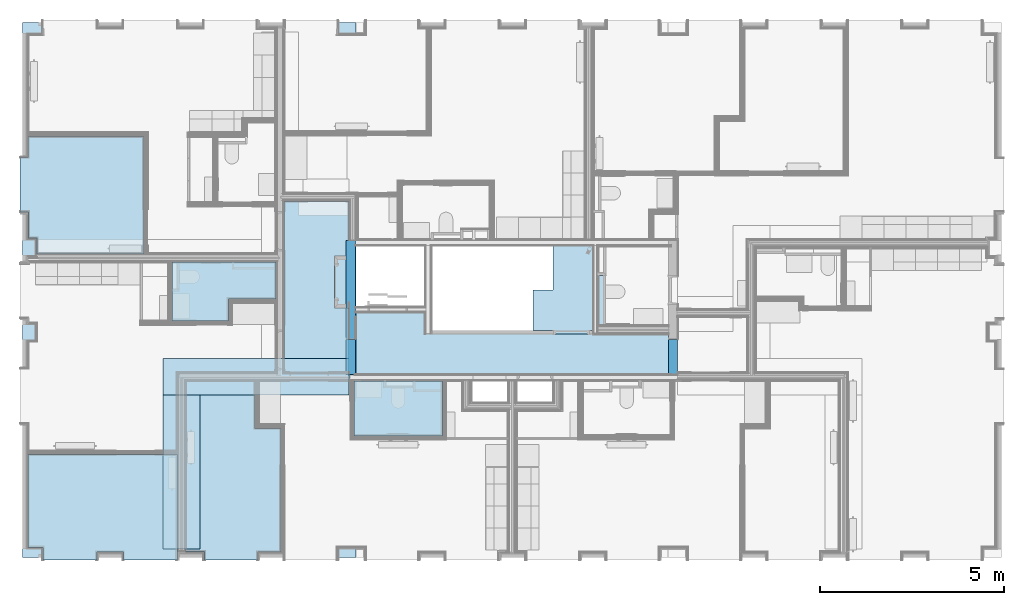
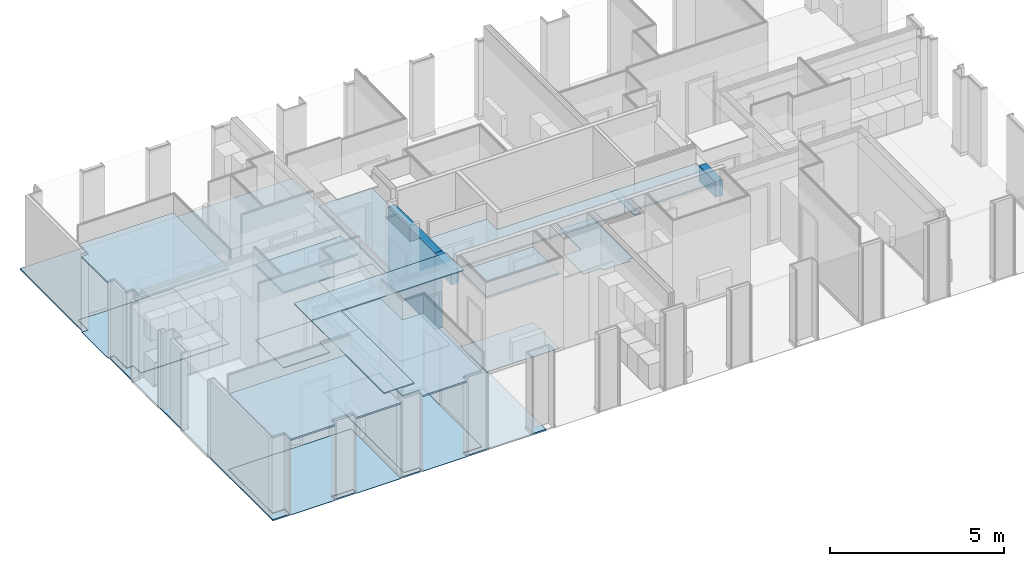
# One storey, part 1 of 65: 27 slabs, 3 beams.
"""IFC2X3 building model written with IfcOpenShell, lengths in metres."""

from ifc_helpers import new_model, entity, si_unit, converted_unit, derived_unit, money_unit, direction, frame, frame_2d, origin_with_axes, place, context, subcontext, project, spatial, rectangle, extrude, faceted_brep, material, type_object, element, save


model = new_model("IFC2X3")

# Units and contexts
model_context = context("Model", 3, precision=1e-05, world=origin_with_axes(), true_north=direction((0.0, 1.0)))
body_context = subcontext(model_context, "Body", "Model", "MODEL_VIEW", scale=1.0)
ifc_project = project(units=[si_unit("LENGTHUNIT", "METRE"), si_unit("AREAUNIT", "SQUARE_METRE"), si_unit("VOLUMEUNIT", "CUBIC_METRE"), si_unit("ABSORBEDDOSEUNIT", "GRAY"), si_unit("AMOUNTOFSUBSTANCEUNIT", "MOLE"), si_unit("DOSEEQUIVALENTUNIT", "SIEVERT"), si_unit("ELECTRICCAPACITANCEUNIT", "FARAD"), si_unit("ELECTRICCHARGEUNIT", "COULOMB"), si_unit("ELECTRICCONDUCTANCEUNIT", "SIEMENS"), si_unit("ELECTRICCURRENTUNIT", "AMPERE"), si_unit("ELECTRICRESISTANCEUNIT", "OHM"), si_unit("ELECTRICVOLTAGEUNIT", "VOLT"), si_unit("ENERGYUNIT", "JOULE"), si_unit("FORCEUNIT", "NEWTON"), si_unit("FREQUENCYUNIT", "HERTZ"), si_unit("ILLUMINANCEUNIT", "LUX"), si_unit("INDUCTANCEUNIT", "HENRY"), si_unit("LUMINOUSFLUXUNIT", "LUMEN"), si_unit("LUMINOUSINTENSITYUNIT", "CANDELA"), si_unit("MAGNETICFLUXDENSITYUNIT", "TESLA"), si_unit("MAGNETICFLUXUNIT", "WEBER"), si_unit("MASSUNIT", "GRAM"), converted_unit("PLANEANGLEUNIT", "degree", entity("IfcReal", 0.0174532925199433), si_unit("PLANEANGLEUNIT", "RADIAN"), dimensions=[0, 0, 0, 0, 0, 0, 0]), si_unit("POWERUNIT", "WATT"), si_unit("PRESSUREUNIT", "PASCAL"), si_unit("RADIOACTIVITYUNIT", "BECQUEREL"), si_unit("SOLIDANGLEUNIT", "STERADIAN"), si_unit("THERMODYNAMICTEMPERATUREUNIT", "KELVIN"), si_unit("TIMEUNIT", "SECOND"), derived_unit("ACCELERATIONUNIT", [(si_unit("LENGTHUNIT", "METRE"), 1), (si_unit("TIMEUNIT", "SECOND"), -2)]), derived_unit("ANGULARVELOCITYUNIT", [(converted_unit("PLANEANGLEUNIT", "degree", entity("IfcReal", 0.0174532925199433), si_unit("PLANEANGLEUNIT", "RADIAN"), dimensions=[0, 0, 0, 0, 0, 0, 0]), 1), (si_unit("TIMEUNIT", "SECOND"), -1)]), derived_unit("CURVATUREUNIT", [(converted_unit("PLANEANGLEUNIT", "degree", entity("IfcReal", 0.0174532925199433), si_unit("PLANEANGLEUNIT", "RADIAN"), dimensions=[0, 0, 0, 0, 0, 0, 0]), 1), (si_unit("LENGTHUNIT", "METRE"), -1)]), derived_unit("DYNAMICVISCOSITYUNIT", [(si_unit("PRESSUREUNIT", "PASCAL"), 1), (si_unit("TIMEUNIT", "SECOND"), 1)]), derived_unit("HEATFLUXDENSITYUNIT", [(si_unit("POWERUNIT", "WATT"), 1), (si_unit("LENGTHUNIT", "METRE"), -2)]), derived_unit("HEATINGVALUEUNIT", [(si_unit("ENERGYUNIT", "JOULE"), 1), (si_unit("MASSUNIT", "GRAM"), -1)]), derived_unit("INTEGERCOUNTRATEUNIT", [(si_unit("TIMEUNIT", "SECOND"), -1)]), derived_unit("IONCONCENTRATIONUNIT", [(si_unit("MASSUNIT", "GRAM"), 1), (si_unit("VOLUMEUNIT", "CUBIC_METRE"), -1)]), derived_unit("ISOTHERMALMOISTURECAPACITYUNIT", [(si_unit("VOLUMEUNIT", "CUBIC_METRE"), 1), (si_unit("MASSUNIT", "GRAM"), -1)]), derived_unit("KINEMATICVISCOSITYUNIT", [(si_unit("AREAUNIT", "SQUARE_METRE"), 1), (si_unit("TIMEUNIT", "SECOND"), -1)]), derived_unit("LINEARFORCEUNIT", [(si_unit("FORCEUNIT", "NEWTON"), 1), (si_unit("LENGTHUNIT", "METRE"), -1)]), derived_unit("LINEARMOMENTUNIT", [(si_unit("FORCEUNIT", "NEWTON"), 1), (si_unit("LENGTHUNIT", "METRE"), -1)]), derived_unit("LINEARSTIFFNESSUNIT", [(si_unit("FORCEUNIT", "NEWTON"), 1), (si_unit("LENGTHUNIT", "METRE"), -1)]), derived_unit("LINEARVELOCITYUNIT", [(si_unit("LENGTHUNIT", "METRE"), 1), (si_unit("TIMEUNIT", "SECOND"), -1)]), derived_unit("LUMINOUSINTENSITYDISTRIBUTIONUNIT", [(si_unit("LUMINOUSINTENSITYUNIT", "CANDELA"), 1), (si_unit("LUMINOUSFLUXUNIT", "LUMEN"), -1)]), derived_unit("MASSDENSITYUNIT", [(si_unit("MASSUNIT", "GRAM"), 1), (si_unit("VOLUMEUNIT", "CUBIC_METRE"), -1)]), derived_unit("MASSFLOWRATEUNIT", [(si_unit("MASSUNIT", "GRAM"), 1), (si_unit("TIMEUNIT", "SECOND"), -1)]), derived_unit("MASSPERLENGTHUNIT", [(si_unit("MASSUNIT", "GRAM"), 1), (si_unit("LENGTHUNIT", "METRE"), -1)]), derived_unit("MODULUSOFELASTICITYUNIT", [(si_unit("FORCEUNIT", "NEWTON"), 1), (si_unit("AREAUNIT", "SQUARE_METRE"), -1)]), derived_unit("MODULUSOFLINEARSUBGRADEREACTIONUNIT", [(si_unit("FORCEUNIT", "NEWTON"), 1), (si_unit("LENGTHUNIT", "METRE"), -2)]), derived_unit("MODULUSOFROTATIONALSUBGRADEREACTIONUNIT", [(si_unit("FORCEUNIT", "NEWTON"), 1), (si_unit("LENGTHUNIT", "METRE"), 1)]), derived_unit("MODULUSOFSUBGRADEREACTIONUNIT", [(si_unit("FORCEUNIT", "NEWTON"), 1), (si_unit("VOLUMEUNIT", "CUBIC_METRE"), -1)]), derived_unit("MOISTUREDIFFUSIVITYUNIT", [(si_unit("VOLUMEUNIT", "CUBIC_METRE"), 1), (si_unit("TIMEUNIT", "SECOND"), -1)]), derived_unit("MOLECULARWEIGHTUNIT", [(si_unit("MASSUNIT", "GRAM"), 1), (si_unit("AMOUNTOFSUBSTANCEUNIT", "MOLE"), -1)]), derived_unit("PLANARFORCEUNIT", [(si_unit("FORCEUNIT", "NEWTON"), 1), (si_unit("LENGTHUNIT", "METRE"), -2)]), derived_unit("ROTATIONALFREQUENCYUNIT", [(si_unit("TIMEUNIT", "SECOND"), -1)]), derived_unit("ROTATIONALMASSUNIT", [(si_unit("MASSUNIT", "GRAM"), 1), (si_unit("LENGTHUNIT", "METRE"), 2)]), derived_unit("ROTATIONALSTIFFNESSUNIT", [(si_unit("FORCEUNIT", "NEWTON"), 1), (si_unit("LENGTHUNIT", "METRE"), 1), (converted_unit("PLANEANGLEUNIT", "degree", entity("IfcReal", 0.0174532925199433), si_unit("PLANEANGLEUNIT", "RADIAN"), dimensions=[0, 0, 0, 0, 0, 0, 0]), -1)]), derived_unit("SECTIONAREAINTEGRALUNIT", [(si_unit("LENGTHUNIT", "METRE"), 5)]), derived_unit("SECTIONMODULUSUNIT", [(si_unit("LENGTHUNIT", "METRE"), 3)]), derived_unit("SHEARMODULUSUNIT", [(si_unit("FORCEUNIT", "NEWTON"), 1), (si_unit("AREAUNIT", "SQUARE_METRE"), -1)]), derived_unit("SOUNDPOWERUNIT", [(si_unit("ENERGYUNIT", "JOULE"), 1), (si_unit("TIMEUNIT", "SECOND"), -1)]), derived_unit("SPECIFICHEATCAPACITYUNIT", [(si_unit("FORCEUNIT", "NEWTON"), 1), (si_unit("MASSUNIT", "GRAM"), -1), (si_unit("THERMODYNAMICTEMPERATUREUNIT", "KELVIN"), -1)]), derived_unit("TEMPERATUREGRADIENTUNIT", [(si_unit("THERMODYNAMICTEMPERATUREUNIT", "KELVIN"), 1), (si_unit("LENGTHUNIT", "METRE"), -1)]), derived_unit("THERMALADMITTANCEUNIT", [(si_unit("POWERUNIT", "WATT"), 1), (si_unit("AREAUNIT", "SQUARE_METRE"), -1), (si_unit("THERMODYNAMICTEMPERATUREUNIT", "KELVIN"), -1)]), derived_unit("THERMALCONDUCTANCEUNIT", [(si_unit("POWERUNIT", "WATT"), 1), (si_unit("LENGTHUNIT", "METRE"), -1), (si_unit("THERMODYNAMICTEMPERATUREUNIT", "KELVIN"), -1)]), derived_unit("THERMALEXPANSIONCOEFFICIENTUNIT", [(si_unit("THERMODYNAMICTEMPERATUREUNIT", "KELVIN"), -1)]), derived_unit("THERMALRESISTANCEUNIT", [(si_unit("AREAUNIT", "SQUARE_METRE"), 1), (si_unit("POWERUNIT", "WATT"), -1)]), derived_unit("THERMALTRANSMITTANCEUNIT", [(si_unit("POWERUNIT", "WATT"), 1), (si_unit("AREAUNIT", "SQUARE_METRE"), -1), (si_unit("THERMODYNAMICTEMPERATUREUNIT", "KELVIN"), -1)]), derived_unit("TORQUEUNIT", [(si_unit("FORCEUNIT", "NEWTON"), 1), (si_unit("LENGTHUNIT", "METRE"), 1)]), derived_unit("VAPORPERMEABILITYUNIT", [(si_unit("MASSUNIT", "GRAM"), 1), (si_unit("TIMEUNIT", "SECOND"), -1)]), derived_unit("VOLUMETRICFLOWRATEUNIT", [(si_unit("VOLUMEUNIT", "CUBIC_METRE"), 1), (si_unit("TIMEUNIT", "SECOND"), -1)]), derived_unit("WARPINGCONSTANTUNIT", [(si_unit("LENGTHUNIT", "METRE"), 6)]), derived_unit("WARPINGMOMENTUNIT", [(si_unit("FORCEUNIT", "NEWTON"), 1), (si_unit("LENGTHUNIT", "METRE"), 2)]), money_unit("GBP")], contexts=[model_context])

# Site, building, storey
site_placement = place(None, origin_with_axes())
site = spatial("IfcSite", under=ifc_project, at=site_placement, Name="Site", CompositionType="ELEMENT")
building_placement = place(site_placement, origin_with_axes())
building = spatial("IfcBuilding", under=site, at=building_placement, Name="Building01", CompositionType="ELEMENT")
storey_placement = place(building_placement, frame((0.0, 0.0, 8.64), z_axis=(0.0, 0.0, 1.0), x_axis=(1.0, 0.0, 0.0)))
storey = spatial("IfcBuildingStorey", under=building, at=storey_placement, Name="2F", CompositionType="ELEMENT", Elevation=8.64)

# Beams
ifc_material_1 = material(Name="S_BSUK_Beams_PrecastConcrete")
beam_type_1 = type_object("IfcBeamType", Name="S-Beams-PrecastConcrete", PredefinedType="BEAM")
beam_1_placement = place(storey_placement, frame((8.975, 8.8, -0.01), z_axis=(0.0, -1.0, 0.0), x_axis=(1.0, 0.0, 0.0)))
element("IfcBeam", 1, at=beam_1_placement, inside=storey, type_object=beam_type_1, material=ifc_material_1, Name="S-Beams-PrecastConcrete", ObjectType="S-Beams-PrecastConcrete", context=body_context, shape_type="SweptSolid", body=[
    extrude(rectangle(XDim=2.7, YDim=0.25, at=frame_2d((0.125, 1.35), x_axis=(0.0, 1.0))), origin_with_axes(), (0.0, 0.0, 1.0), 2.7),
])
beam_2_placement = place(storey_placement, frame((8.975, 6.1, 2.142), z_axis=(0.0, -1.0, 0.0), x_axis=(1.0, 0.0, 0.0)))
element("IfcBeam", 2, at=beam_2_placement, inside=storey, type_object=beam_type_1, material=ifc_material_1, Name="S-Beams-PrecastConcrete", ObjectType="S-Beams-PrecastConcrete", context=body_context, shape_type="SweptSolid", body=[
    extrude(rectangle(XDim=0.548, YDim=0.25, at=frame_2d((0.125, 0.274), x_axis=(0.0, 1.0))), origin_with_axes(), (0.0, 0.0, 1.0), 0.95),
])
beam_type_2 = type_object("IfcBeamType", Name="S-Beams:S_BSUK_Beams_PrecastConcrete", PredefinedType="NOTDEFINED")
beam_3_placement = place(storey_placement, frame((17.75, 6.1, 2.142), z_axis=(0.0, -1.0, 0.0), x_axis=(1.0, 0.0, 0.0)))
element("IfcBeam", 3, at=beam_3_placement, inside=storey, type_object=beam_type_2, material=ifc_material_1, Name="S-Beams--S_BSUK_Beams_PrecastConcrete", ObjectType="S-Beams:S_BSUK_Beams_PrecastConcrete", context=body_context, shape_type="SweptSolid", body=[
    extrude(rectangle(XDim=0.548, YDim=0.25, at=frame_2d((0.125, 0.274), x_axis=(0.0, 1.0))), origin_with_axes(), (0.0, 0.0, 1.0), 0.95),
])

# Slabs
ifc_material_2 = material(Name="A_BSUK_CeilingSoffitFinishes_Suspended")
slab_type_1 = type_object("IfcSlabType", Name="A-FloorsSlabs A_BSUK_Slabs", PredefinedType="FLOOR")
placement = place(storey_placement, frame((0.0, 0.0, -8.64), z_axis=(0.0, 0.0, 1.0), x_axis=(1.0, 0.0, 0.0)))
element("IfcSlab", 4, at=placement, inside=storey, type_object=slab_type_1, material=ifc_material_2, Name="A-FloorsSlabs A_BSUK_Slabs", ObjectType="CompoundSlabLeaf", context=body_context, shape_type="Brep", body=[
    faceted_brep([(7.289669, 5.205, 11.255), (7.289669, 5.205, 11.27), (7.289669, 9.862704, 11.27), (7.289669, 9.862704, 11.255), (9.06, 5.205, 11.255), (9.06, 5.205, 11.27), (9.06, 6.968405, 11.255), (9.06, 6.968405, 11.27), (8.658, 6.968405, 11.255), (8.658, 6.968405, 11.27), (8.658, 8.372405, 11.255), (8.658, 8.372405, 11.27), (8.975, 8.372405, 11.255), (8.975, 8.372405, 11.27), (8.975, 8.8, 11.255), (8.975, 8.8, 11.27), (9.06, 8.8, 11.255), (9.06, 8.8, 11.27), (9.06, 9.862704, 11.255), (9.06, 9.862704, 11.27)], [[[0, 1, 2, 3]], [[4, 5, 1, 0]], [[6, 7, 5, 4]], [[8, 9, 7, 6]], [[10, 11, 9, 8]], [[12, 13, 11, 10]], [[14, 15, 13, 12]], [[16, 17, 15, 14]], [[18, 19, 17, 16]], [[3, 2, 19, 18]], [[1, 5, 7, 9, 11, 13, 15, 17, 19, 2]], [[3, 18, 16, 14, 12, 10, 8, 6, 4, 0]]]),
])
element("IfcSlab", 5, at=placement, inside=storey, type_object=slab_type_1, material=ifc_material_2, Name="A-FloorsSlabs A_BSUK_Slabs", ObjectType="CompoundSlabLeaf", context=body_context, shape_type="Brep", body=[
    faceted_brep([(9.25, 5.15, 11.255), (9.25, 5.15, 11.27), (9.25, 6.85, 11.27), (9.25, 6.85, 11.255), (17.75, 5.15, 11.255), (17.75, 5.15, 11.27), (17.75, 6.25, 11.255), (17.75, 6.25, 11.27), (15.679803, 6.25, 11.255), (15.679803, 6.25, 11.27), (11.13, 6.25, 11.255), (11.13, 6.25, 11.27), (11.13, 6.85, 11.255), (11.13, 6.85, 11.27)], [[[0, 1, 2, 3]], [[4, 5, 1, 0]], [[6, 7, 5, 4]], [[8, 9, 7, 6]], [[10, 11, 9, 8]], [[12, 13, 11, 10]], [[3, 2, 13, 12]], [[1, 5, 7, 9, 11, 13, 2]], [[3, 12, 10, 8, 6, 4, 0]]]),
])
ifc_material_3 = material(Name="A_BSUK_InternalFinishes_FloorScreed")
element("IfcSlab", 6, at=placement, inside=storey, type_object=slab_type_1, material=ifc_material_3, Name="A-FloorsSlabs A_BSUK_Slabs", ObjectType="CompoundSlabLeaf", context=body_context, shape_type="Brep", body=[
    faceted_brep([(0.17, 14.73, 8.59), (0.17, 14.73, 8.64), (9.25, 14.73, 8.64), (9.25, 14.73, 8.59), (0.17, 0.17, 8.59), (0.17, 0.17, 8.64), (9.25, 0.17, 8.59), (9.25, 0.17, 8.64)], [[[0, 1, 2, 3]], [[4, 5, 1, 0]], [[6, 7, 5, 4]], [[3, 2, 7, 6]], [[1, 5, 7, 2]], [[3, 6, 4, 0]]]),
])
ifc_material_4 = material(Name="A_BSUK_Ceramic_WallTiles")
element("IfcSlab", 7, at=placement, inside=storey, type_object=slab_type_1, material=ifc_material_4, Name="A-FloorsSlabs A_BSUK_Slabs", ObjectType="CompoundSlabLeaf", context=body_context, shape_type="Brep", body=[
    faceted_brep([(16.03, 6.475, 10.015), (16.03, 6.475, 10.04), (15.83, 6.475, 10.04), (15.83, 6.475, 10.015), (16.03, 7.849998, 10.015), (16.03, 7.849998, 10.04), (15.830003, 7.85, 10.015), (15.830003, 7.85, 10.04)], [[[0, 1, 2, 3]], [[4, 5, 1, 0]], [[6, 7, 5, 4]], [[3, 2, 7, 6]], [[1, 5, 7, 2]], [[3, 6, 4, 0]]]),
])
ifc_material_5 = material(Name="A_BSUK_ExpandedPolystyreneBoards")
element("IfcSlab", 8, at=placement, inside=storey, type_object=slab_type_1, material=ifc_material_5, Name="A-FloorsSlabs A_BSUK_Slabs", ObjectType="CompoundSlabLeaf", context=body_context, shape_type="Brep", body=[
    faceted_brep([(7.289669, 5.205, 8.64), (7.289669, 5.205, 8.643), (7.289669, 9.862704, 8.643), (7.289669, 9.862704, 8.64), (8.975, 5.205, 8.64), (8.975, 5.205, 8.643), (8.975, 6.968405, 8.64), (8.975, 6.968405, 8.643), (9.06, 6.968405, 8.64), (9.06, 6.968405, 8.643), (9.06, 8.372405, 8.64), (9.06, 8.372405, 8.643), (9.06, 8.9, 8.64), (9.06, 8.9, 8.643), (9.06, 9.862704, 8.64), (9.06, 9.862704, 8.643)], [[[0, 1, 2, 3]], [[4, 5, 1, 0]], [[6, 7, 5, 4]], [[8, 9, 7, 6]], [[10, 11, 9, 8]], [[12, 13, 11, 10]], [[14, 15, 13, 12]], [[3, 2, 15, 14]], [[1, 5, 7, 9, 11, 13, 15, 2]], [[3, 14, 12, 10, 8, 6, 4, 0]]]),
])
ifc_material_6 = material(Name="A_BSUK_Carpet-Pile")
element("IfcSlab", 9, at=placement, inside=storey, type_object=slab_type_1, material=ifc_material_6, Name="A-FloorsSlabs A_BSUK_Slabs", ObjectType="CompoundSlabLeaf", context=body_context, shape_type="Brep", body=[
    faceted_brep([(0.318, 11.63067, 8.643), (0.318, 11.63067, 8.655), (3.474669, 11.63067, 8.655), (3.474669, 11.63067, 8.643), (0.318, 11.055, 8.643), (0.318, 11.055, 8.655), (0.1, 11.055, 8.643), (0.1, 11.055, 8.655), (0.1, 9.56218, 8.643), (0.1, 9.56218, 8.655), (0.318, 9.56218, 8.643), (0.318, 9.56218, 8.655), (0.318, 8.848, 8.643), (0.318, 8.848, 8.655), (0.548, 8.848, 8.643), (0.548, 8.848, 8.655), (0.548, 8.43567, 8.643), (0.548, 8.43567, 8.655), (3.474669, 8.43567, 8.643), (3.474669, 8.43567, 8.655)], [[[0, 1, 2, 3]], [[4, 5, 1, 0]], [[6, 7, 5, 4]], [[8, 9, 7, 6]], [[10, 11, 9, 8]], [[12, 13, 11, 10]], [[14, 15, 13, 12]], [[16, 17, 15, 14]], [[18, 19, 17, 16]], [[3, 2, 19, 18]], [[1, 5, 7, 9, 11, 13, 15, 17, 19, 2]], [[3, 18, 16, 14, 12, 10, 8, 6, 4, 0]]]),
])
ifc_material_7 = material(Name="A_BSUK_Ceramic_FloorTiles")
element("IfcSlab", 10, at=placement, inside=storey, type_object=slab_type_1, material=ifc_material_7, Name="A-FloorsSlabs A_BSUK_Slabs", ObjectType="CompoundSlabLeaf", context=body_context, shape_type="Brep", body=[
    faceted_brep([(9.192536, 4.98, 8.643), (9.192536, 4.98, 8.655), (11.592536, 4.98, 8.655), (11.592536, 4.98, 8.643), (9.192536, 3.48, 8.643), (9.192536, 3.48, 8.655), (11.592536, 3.48, 8.643), (11.592536, 3.48, 8.655), (11.592536, 4.259428, 8.643), (11.592536, 4.259428, 8.655)], [[[0, 1, 2, 3]], [[4, 5, 1, 0]], [[6, 7, 5, 4]], [[8, 9, 7, 6]], [[3, 2, 9, 8]], [[1, 5, 7, 9, 2]], [[3, 8, 6, 4, 0]]]),
])
element("IfcSlab", 11, at=placement, inside=storey, type_object=slab_type_1, material=ifc_material_6, Name="A-FloorsSlabs A_BSUK_Slabs", ObjectType="CompoundSlabLeaf", context=body_context, shape_type="Brep", body=[
    faceted_brep([(4.61, 4.98, 8.643), (4.61, 4.98, 8.655), (6.5, 4.98, 8.655), (6.5, 4.98, 8.643), (4.61, 0.318, 8.643), (4.61, 0.318, 8.655), (5.105, 0.318, 8.643), (5.105, 0.318, 8.655), (5.105, 0.1, 8.643), (5.105, 0.1, 8.655), (6.575, 0.1, 8.643), (6.575, 0.1, 8.655), (6.575, 0.318, 8.643), (6.575, 0.318, 8.655), (7.2, 0.318, 8.643), (7.2, 0.318, 8.655), (7.2, 3.685, 8.643), (7.2, 3.685, 8.655), (6.5, 3.685, 8.643), (6.5, 3.685, 8.655)], [[[0, 1, 2, 3]], [[4, 5, 1, 0]], [[6, 7, 5, 4]], [[8, 9, 7, 6]], [[10, 11, 9, 8]], [[12, 13, 11, 10]], [[14, 15, 13, 12]], [[16, 17, 15, 14]], [[18, 19, 17, 16]], [[3, 2, 19, 18]], [[1, 5, 7, 9, 11, 13, 15, 17, 19, 2]], [[3, 18, 16, 14, 12, 10, 8, 6, 4, 0]]]),
])
element("IfcSlab", 12, at=placement, inside=storey, type_object=slab_type_1, material=ifc_material_7, Name="A-FloorsSlabs A_BSUK_Slabs", ObjectType="CompoundSlabLeaf", context=body_context, shape_type="Brep", body=[
    faceted_brep([(4.24073, 8.21067, 8.643), (4.24073, 8.21067, 8.655), (7.064669, 8.21067, 8.655), (7.064669, 8.21067, 8.643), (4.24073, 6.606475, 8.643), (4.24073, 6.606475, 8.655), (5.769669, 6.606475, 8.643), (5.769669, 6.606475, 8.655), (5.769669, 7.206475, 8.643), (5.769669, 7.206475, 8.655), (7.064669, 7.206475, 8.643), (7.064669, 7.206475, 8.655)], [[[0, 1, 2, 3]], [[4, 5, 1, 0]], [[6, 7, 5, 4]], [[8, 9, 7, 6]], [[10, 11, 9, 8]], [[3, 2, 11, 10]], [[1, 5, 7, 9, 11, 2]], [[3, 10, 8, 6, 4, 0]]]),
])
element("IfcSlab", 13, at=placement, inside=storey, type_object=slab_type_1, material=ifc_material_6, Name="A-FloorsSlabs A_BSUK_Slabs", ObjectType="CompoundSlabLeaf", context=body_context, shape_type="Brep", body=[
    faceted_brep([(0.318, 0.448, 8.643), (0.318, 0.448, 8.655), (0.318, 2.970286, 8.655), (0.318, 2.970286, 8.643), (0.725, 0.448, 8.643), (0.725, 0.448, 8.655), (0.725, 0.1, 8.643), (0.725, 0.1, 8.655), (2.195, 0.1, 8.643), (2.195, 0.1, 8.655), (2.195, 0.318, 8.643), (2.195, 0.318, 8.655), (2.915, 0.318, 8.643), (2.915, 0.318, 8.655), (2.915, 0.1, 8.643), (2.915, 0.1, 8.655), (4.385, 0.1, 8.643), (4.385, 0.1, 8.655), (4.385, 2.970286, 8.643), (4.385, 2.970286, 8.655)], [[[0, 1, 2, 3]], [[4, 5, 1, 0]], [[6, 7, 5, 4]], [[8, 9, 7, 6]], [[10, 11, 9, 8]], [[12, 13, 11, 10]], [[14, 15, 13, 12]], [[16, 17, 15, 14]], [[18, 19, 17, 16]], [[3, 2, 19, 18]], [[1, 5, 7, 9, 11, 13, 15, 17, 19, 2]], [[3, 18, 16, 14, 12, 10, 8, 6, 4, 0]]]),
])
element("IfcSlab", 14, at=placement, inside=storey, type_object=slab_type_1, material=ifc_material_6, Name="A-FloorsSlabs A_BSUK_Slabs", ObjectType="CompoundSlabLeaf", context=body_context, shape_type="Brep", body=[
    faceted_brep([(14.609584, 7.454282, 8.643), (14.609584, 7.454282, 8.655), (14.609584, 8.65, 8.655), (14.609584, 8.65, 8.643), (14.059316, 7.454282, 8.643), (14.059316, 7.454282, 8.655), (14.059316, 6.35, 8.643), (14.059316, 6.35, 8.655), (14.658, 6.35, 8.643), (14.658, 6.35, 8.655), (14.658, 6.25, 8.643), (14.658, 6.25, 8.655), (15.558, 6.25, 8.643), (15.558, 6.25, 8.655), (15.558, 6.35, 8.643), (15.558, 6.35, 8.655), (15.7, 6.35, 8.643), (15.7, 6.35, 8.655), (15.7, 8.65, 8.643), (15.7, 8.65, 8.655)], [[[0, 1, 2, 3]], [[4, 5, 1, 0]], [[6, 7, 5, 4]], [[8, 9, 7, 6]], [[10, 11, 9, 8]], [[12, 13, 11, 10]], [[14, 15, 13, 12]], [[16, 17, 15, 14]], [[18, 19, 17, 16]], [[3, 2, 19, 18]], [[1, 5, 7, 9, 11, 13, 15, 17, 19, 2]], [[3, 18, 16, 14, 12, 10, 8, 6, 4, 0]]]),
])
element("IfcSlab", 15, at=placement, inside=storey, type_object=slab_type_1, material=ifc_material_2, Name="A-FloorsSlabs A_BSUK_Slabs", ObjectType="CompoundSlabLeaf", context=body_context, shape_type="Brep", body=[
    faceted_brep([(9.192536, 4.98, 11.255), (9.192536, 4.98, 11.27), (11.592536, 4.98, 11.27), (11.592536, 4.98, 11.255), (9.192536, 3.48, 11.255), (9.192536, 3.48, 11.27), (11.592536, 3.48, 11.255), (11.592536, 3.48, 11.27), (11.592536, 4.259428, 11.255), (11.592536, 4.259428, 11.27)], [[[0, 1, 2, 3]], [[4, 5, 1, 0]], [[6, 7, 5, 4]], [[8, 9, 7, 6]], [[3, 2, 9, 8]], [[1, 5, 7, 9, 2]], [[3, 8, 6, 4, 0]]]),
])
element("IfcSlab", 16, at=placement, inside=storey, type_object=slab_type_1, material=ifc_material_2, Name="A-FloorsSlabs A_BSUK_Slabs", ObjectType="CompoundSlabLeaf", context=body_context, shape_type="Brep", body=[
    faceted_brep([(4.61, 4.98, 11.255), (4.61, 4.98, 11.27), (6.5, 4.98, 11.27), (6.5, 4.98, 11.255), (4.61, 0.333, 11.255), (4.61, 0.333, 11.27), (5.120124, 0.333, 11.255), (5.120124, 0.333, 11.27), (5.120124, 0.1, 11.255), (5.120124, 0.1, 11.27), (6.575, 0.1, 11.255), (6.575, 0.1, 11.27), (6.575, 0.318, 11.255), (6.575, 0.318, 11.27), (7.2, 0.318, 11.255), (7.2, 0.318, 11.27), (7.2, 3.685, 11.255), (7.2, 3.685, 11.27), (6.5, 3.685, 11.255), (6.5, 3.685, 11.27)], [[[0, 1, 2, 3]], [[4, 5, 1, 0]], [[6, 7, 5, 4]], [[8, 9, 7, 6]], [[10, 11, 9, 8]], [[12, 13, 11, 10]], [[14, 15, 13, 12]], [[16, 17, 15, 14]], [[18, 19, 17, 16]], [[3, 2, 19, 18]], [[1, 5, 7, 9, 11, 13, 15, 17, 19, 2]], [[3, 18, 16, 14, 12, 10, 8, 6, 4, 0]]]),
])
element("IfcSlab", 17, at=placement, inside=storey, type_object=slab_type_1, material=ifc_material_2, Name="A-FloorsSlabs A_BSUK_Slabs", ObjectType="CompoundSlabLeaf", context=body_context, shape_type="Brep", body=[
    faceted_brep([(4.24073, 8.21067, 11.255), (4.24073, 8.21067, 11.27), (7.064669, 8.21067, 11.27), (7.064669, 8.21067, 11.255), (4.24073, 6.606475, 11.255), (4.24073, 6.606475, 11.27), (5.769669, 6.606475, 11.255), (5.769669, 6.606475, 11.27), (5.769669, 7.206475, 11.255), (5.769669, 7.206475, 11.27), (7.064669, 7.206475, 11.255), (7.064669, 7.206475, 11.27)], [[[0, 1, 2, 3]], [[4, 5, 1, 0]], [[6, 7, 5, 4]], [[8, 9, 7, 6]], [[10, 11, 9, 8]], [[3, 2, 11, 10]], [[1, 5, 7, 9, 11, 2]], [[3, 10, 8, 6, 4, 0]]]),
])
element("IfcSlab", 18, at=placement, inside=storey, type_object=slab_type_1, material=ifc_material_2, Name="A-FloorsSlabs A_BSUK_Slabs", ObjectType="CompoundSlabLeaf", context=body_context, shape_type="Brep", body=[
    faceted_brep([(0.318, 11.63067, 11.255), (0.318, 11.63067, 11.27), (3.474669, 11.63067, 11.27), (3.474669, 11.63067, 11.255), (0.318, 11.055, 11.255), (0.318, 11.055, 11.27), (0.1, 11.055, 11.255), (0.1, 11.055, 11.27), (0.1, 9.57718, 11.255), (0.1, 9.57718, 11.27), (0.333, 9.57718, 11.255), (0.333, 9.57718, 11.27), (0.333, 8.863, 11.255), (0.333, 8.863, 11.27), (0.563, 8.863, 11.255), (0.563, 8.863, 11.27), (0.563, 8.43567, 11.255), (0.563, 8.43567, 11.27), (3.474669, 8.43567, 11.255), (3.474669, 8.43567, 11.27)], [[[0, 1, 2, 3]], [[4, 5, 1, 0]], [[6, 7, 5, 4]], [[8, 9, 7, 6]], [[10, 11, 9, 8]], [[12, 13, 11, 10]], [[14, 15, 13, 12]], [[16, 17, 15, 14]], [[18, 19, 17, 16]], [[3, 2, 19, 18]], [[1, 5, 7, 9, 11, 13, 15, 17, 19, 2]], [[3, 18, 16, 14, 12, 10, 8, 6, 4, 0]]]),
])
element("IfcSlab", 19, at=placement, inside=storey, type_object=slab_type_1, material=ifc_material_2, Name="A-FloorsSlabs A_BSUK_Slabs", ObjectType="CompoundSlabLeaf", context=body_context, shape_type="Brep", body=[
    faceted_brep([(0.318, 0.448, 11.255), (0.318, 0.448, 11.27), (0.318, 2.970286, 11.27), (0.318, 2.970286, 11.255), (0.725, 0.448, 11.255), (0.725, 0.448, 11.27), (0.725, 0.1, 11.255), (0.725, 0.1, 11.27), (2.195, 0.1, 11.255), (2.195, 0.1, 11.27), (2.195, 0.318, 11.255), (2.195, 0.318, 11.27), (2.915, 0.318, 11.255), (2.915, 0.318, 11.27), (2.915, 0.1, 11.255), (2.915, 0.1, 11.27), (4.385, 0.1, 11.255), (4.385, 0.1, 11.27), (4.385, 2.970286, 11.255), (4.385, 2.970286, 11.27)], [[[0, 1, 2, 3]], [[4, 5, 1, 0]], [[6, 7, 5, 4]], [[8, 9, 7, 6]], [[10, 11, 9, 8]], [[12, 13, 11, 10]], [[14, 15, 13, 12]], [[16, 17, 15, 14]], [[18, 19, 17, 16]], [[3, 2, 19, 18]], [[1, 5, 7, 9, 11, 13, 15, 17, 19, 2]], [[3, 18, 16, 14, 12, 10, 8, 6, 4, 0]]]),
])
element("IfcSlab", 20, at=placement, inside=storey, type_object=slab_type_1, material=ifc_material_2, Name="A-FloorsSlabs A_BSUK_Slabs", ObjectType="CompoundSlabLeaf", context=body_context, shape_type="Brep", body=[
    faceted_brep([(3.997, 4.593, 11.605), (3.997, 4.593, 11.62), (3.997, 5.593, 11.62), (3.997, 5.593, 11.605), (9.06, 4.593, 11.605), (9.06, 4.593, 11.62), (9.06, 5.593, 11.605), (9.06, 5.593, 11.62)], [[[0, 1, 2, 3]], [[4, 5, 1, 0]], [[6, 7, 5, 4]], [[3, 2, 7, 6]], [[1, 5, 7, 2]], [[3, 6, 4, 0]]]),
])
element("IfcSlab", 21, at=placement, inside=storey, type_object=slab_type_1, material=ifc_material_2, Name="A-FloorsSlabs A_BSUK_Slabs", ObjectType="CompoundSlabLeaf", context=body_context, shape_type="Brep", body=[
    faceted_brep([(3.997, 0.4, 11.605), (3.997, 0.4, 11.62), (3.997, 4.593, 11.62), (3.997, 4.593, 11.605), (4.997, 0.4, 11.605), (4.997, 0.4, 11.62), (4.997, 4.593, 11.605), (4.997, 4.593, 11.62)], [[[0, 1, 2, 3]], [[4, 5, 1, 0]], [[6, 7, 5, 4]], [[3, 2, 7, 6]], [[1, 5, 7, 2]], [[3, 6, 4, 0]]]),
])
element("IfcSlab", 22, at=placement, inside=storey, type_object=slab_type_1, material=ifc_material_2, Name="A-FloorsSlabs A_BSUK_Slabs", ObjectType="CompoundSlabLeaf", context=body_context, shape_type="Brep", body=[
    faceted_brep([(3.997, 4.593, 11.59), (3.997, 4.593, 11.605), (3.997, 5.593, 11.605), (3.997, 5.593, 11.59), (9.06, 4.593, 11.59), (9.06, 4.593, 11.605), (9.06, 5.593, 11.59), (9.06, 5.593, 11.605)], [[[0, 1, 2, 3]], [[4, 5, 1, 0]], [[6, 7, 5, 4]], [[3, 2, 7, 6]], [[1, 5, 7, 2]], [[3, 6, 4, 0]]]),
])
element("IfcSlab", 23, at=placement, inside=storey, type_object=slab_type_1, material=ifc_material_2, Name="A-FloorsSlabs A_BSUK_Slabs", ObjectType="CompoundSlabLeaf", context=body_context, shape_type="Brep", body=[
    faceted_brep([(3.997, 0.4, 11.59), (3.997, 0.4, 11.605), (3.997, 4.593, 11.605), (3.997, 4.593, 11.59), (4.997, 0.4, 11.59), (4.997, 0.4, 11.605), (4.997, 4.593, 11.59), (4.997, 4.593, 11.605)], [[[0, 1, 2, 3]], [[4, 5, 1, 0]], [[6, 7, 5, 4]], [[3, 2, 7, 6]], [[1, 5, 7, 2]], [[3, 6, 4, 0]]]),
])
slab_type_2 = type_object("IfcSlabType", Name="A-FloorsSlabs A_BSUK_ExpandedPolystyreneBoards", PredefinedType="FLOOR")
element("IfcSlab", 24, at=placement, inside=storey, type_object=slab_type_2, material=ifc_material_5, Name="A-FloorsSlabs A_BSUK_ExpandedPolystyreneBoards", ObjectType="CompoundSlabLeaf", context=body_context, shape_type="Brep", body=[
    faceted_brep([(9.192536, 4.98, 11.27), (9.192536, 4.98, 11.32), (11.592536, 4.98, 11.32), (11.592536, 4.98, 11.27), (9.192536, 3.48, 11.27), (9.192536, 3.48, 11.32), (11.592536, 3.48, 11.27), (11.592536, 3.48, 11.32), (11.592536, 4.259428, 11.27), (11.592536, 4.259428, 11.32)], [[[0, 1, 2, 3]], [[4, 5, 1, 0]], [[6, 7, 5, 4]], [[8, 9, 7, 6]], [[3, 2, 9, 8]], [[1, 5, 7, 9, 2]], [[3, 8, 6, 4, 0]]]),
])
element("IfcSlab", 25, at=placement, inside=storey, type_object=slab_type_2, material=ifc_material_5, Name="A-FloorsSlabs A_BSUK_ExpandedPolystyreneBoards", ObjectType="CompoundSlabLeaf", context=body_context, shape_type="Brep", body=[
    faceted_brep([(4.61, 4.98, 11.27), (4.61, 4.98, 11.32), (6.5, 4.98, 11.32), (6.5, 4.98, 11.27), (4.61, 0.318, 11.27), (4.61, 0.318, 11.32), (5.105, 0.318, 11.27), (5.105, 0.318, 11.32), (5.105, 0.1, 11.27), (5.105, 0.1, 11.32), (6.575, 0.1, 11.27), (6.575, 0.1, 11.32), (6.575, 0.318, 11.27), (6.575, 0.318, 11.32), (7.2, 0.318, 11.27), (7.2, 0.318, 11.32), (7.2, 3.685, 11.27), (7.2, 3.685, 11.32), (6.5, 3.685, 11.27), (6.5, 3.685, 11.32)], [[[0, 1, 2, 3]], [[4, 5, 1, 0]], [[6, 7, 5, 4]], [[8, 9, 7, 6]], [[10, 11, 9, 8]], [[12, 13, 11, 10]], [[14, 15, 13, 12]], [[16, 17, 15, 14]], [[18, 19, 17, 16]], [[3, 2, 19, 18]], [[1, 5, 7, 9, 11, 13, 15, 17, 19, 2]], [[3, 18, 16, 14, 12, 10, 8, 6, 4, 0]]]),
])
element("IfcSlab", 26, at=placement, inside=storey, type_object=slab_type_2, material=ifc_material_5, Name="A-FloorsSlabs A_BSUK_ExpandedPolystyreneBoards", ObjectType="CompoundSlabLeaf", context=body_context, shape_type="Brep", body=[
    faceted_brep([(4.24073, 8.21067, 11.27), (4.24073, 8.21067, 11.32), (7.064669, 8.21067, 11.32), (7.064669, 8.21067, 11.27), (4.24073, 6.606475, 11.27), (4.24073, 6.606475, 11.32), (5.769669, 6.606475, 11.27), (5.769669, 6.606475, 11.32), (5.769669, 7.206475, 11.27), (5.769669, 7.206475, 11.32), (7.064669, 7.206475, 11.27), (7.064669, 7.206475, 11.32)], [[[0, 1, 2, 3]], [[4, 5, 1, 0]], [[6, 7, 5, 4]], [[8, 9, 7, 6]], [[10, 11, 9, 8]], [[3, 2, 11, 10]], [[1, 5, 7, 9, 11, 2]], [[3, 10, 8, 6, 4, 0]]]),
])
element("IfcSlab", 27, at=placement, inside=storey, type_object=slab_type_2, material=ifc_material_5, Name="A-FloorsSlabs A_BSUK_ExpandedPolystyreneBoards", ObjectType="CompoundSlabLeaf", context=body_context, shape_type="Brep", body=[
    faceted_brep([(0.318, 11.63067, 11.27), (0.318, 11.63067, 11.32), (3.474669, 11.63067, 11.32), (3.474669, 11.63067, 11.27), (0.318, 11.055, 11.27), (0.318, 11.055, 11.32), (0.1, 11.055, 11.27), (0.1, 11.055, 11.32), (0.1, 9.56218, 11.27), (0.1, 9.56218, 11.32), (0.318, 9.56218, 11.27), (0.318, 9.56218, 11.32), (0.318, 8.848, 11.27), (0.318, 8.848, 11.32), (0.548, 8.848, 11.27), (0.548, 8.848, 11.32), (0.548, 8.43567, 11.27), (0.548, 8.43567, 11.32), (3.474669, 8.43567, 11.27), (3.474669, 8.43567, 11.32)], [[[0, 1, 2, 3]], [[4, 5, 1, 0]], [[6, 7, 5, 4]], [[8, 9, 7, 6]], [[10, 11, 9, 8]], [[12, 13, 11, 10]], [[14, 15, 13, 12]], [[16, 17, 15, 14]], [[18, 19, 17, 16]], [[3, 2, 19, 18]], [[1, 5, 7, 9, 11, 13, 15, 17, 19, 2]], [[3, 18, 16, 14, 12, 10, 8, 6, 4, 0]]]),
])
element("IfcSlab", 28, at=placement, inside=storey, type_object=slab_type_2, material=ifc_material_5, Name="A-FloorsSlabs A_BSUK_ExpandedPolystyreneBoards", ObjectType="CompoundSlabLeaf", context=body_context, shape_type="Brep", body=[
    faceted_brep([(0.318, 0.448, 11.27), (0.318, 0.448, 11.32), (0.318, 2.970286, 11.32), (0.318, 2.970286, 11.27), (0.725, 0.448, 11.27), (0.725, 0.448, 11.32), (0.725, 0.1, 11.27), (0.725, 0.1, 11.32), (2.195, 0.1, 11.27), (2.195, 0.1, 11.32), (2.195, 0.318, 11.27), (2.195, 0.318, 11.32), (2.915, 0.318, 11.27), (2.915, 0.318, 11.32), (2.915, 0.1, 11.27), (2.915, 0.1, 11.32), (4.385, 0.1, 11.27), (4.385, 0.1, 11.32), (4.385, 2.970286, 11.27), (4.385, 2.970286, 11.32)], [[[0, 1, 2, 3]], [[4, 5, 1, 0]], [[6, 7, 5, 4]], [[8, 9, 7, 6]], [[10, 11, 9, 8]], [[12, 13, 11, 10]], [[14, 15, 13, 12]], [[16, 17, 15, 14]], [[18, 19, 17, 16]], [[3, 2, 19, 18]], [[1, 5, 7, 9, 11, 13, 15, 17, 19, 2]], [[3, 18, 16, 14, 12, 10, 8, 6, 4, 0]]]),
])
element("IfcSlab", 29, at=placement, inside=storey, type_object=slab_type_2, material=ifc_material_5, Name="A-FloorsSlabs A_BSUK_ExpandedPolystyreneBoards", ObjectType="CompoundSlabLeaf", context=body_context, shape_type="Brep", body=[
    faceted_brep([(7.289669, 5.205, 11.27), (7.289669, 5.205, 11.32), (7.289669, 9.862704, 11.32), (7.289669, 9.862704, 11.27), (9.06, 5.205, 11.27), (9.06, 5.205, 11.32), (9.06, 6.968405, 11.27), (9.06, 6.968405, 11.32), (8.658, 6.968405, 11.27), (8.658, 6.968405, 11.32), (8.658, 8.372405, 11.27), (8.658, 8.372405, 11.32), (8.975, 8.372405, 11.27), (8.975, 8.372405, 11.32), (8.975, 8.8, 11.27), (8.975, 8.8, 11.32), (9.06, 8.8, 11.27), (9.06, 8.8, 11.32), (9.06, 9.862704, 11.27), (9.06, 9.862704, 11.32)], [[[0, 1, 2, 3]], [[4, 5, 1, 0]], [[6, 7, 5, 4]], [[8, 9, 7, 6]], [[10, 11, 9, 8]], [[12, 13, 11, 10]], [[14, 15, 13, 12]], [[16, 17, 15, 14]], [[18, 19, 17, 16]], [[3, 2, 19, 18]], [[1, 5, 7, 9, 11, 13, 15, 17, 19, 2]], [[3, 18, 16, 14, 12, 10, 8, 6, 4, 0]]]),
])
element("IfcSlab", 30, at=placement, inside=storey, type_object=slab_type_2, material=ifc_material_5, Name="A-FloorsSlabs A_BSUK_ExpandedPolystyreneBoards", ObjectType="CompoundSlabLeaf", context=body_context, shape_type="Brep", body=[
    faceted_brep([(9.225, 5.15, 11.27), (9.225, 5.15, 11.32), (9.225, 6.85, 11.32), (9.225, 6.85, 11.27), (17.75, 5.15, 11.27), (17.75, 5.15, 11.32), (17.75, 6.25, 11.27), (17.75, 6.25, 11.32), (15.679803, 6.25, 11.27), (15.679803, 6.25, 11.32), (11.13, 6.25, 11.27), (11.13, 6.25, 11.32), (11.13, 6.85, 11.27), (11.13, 6.85, 11.32)], [[[0, 1, 2, 3]], [[4, 5, 1, 0]], [[6, 7, 5, 4]], [[8, 9, 7, 6]], [[10, 11, 9, 8]], [[12, 13, 11, 10]], [[3, 2, 13, 12]], [[1, 5, 7, 9, 11, 13, 2]], [[3, 12, 10, 8, 6, 4, 0]]]),
])

save(model, "model.ifc")
